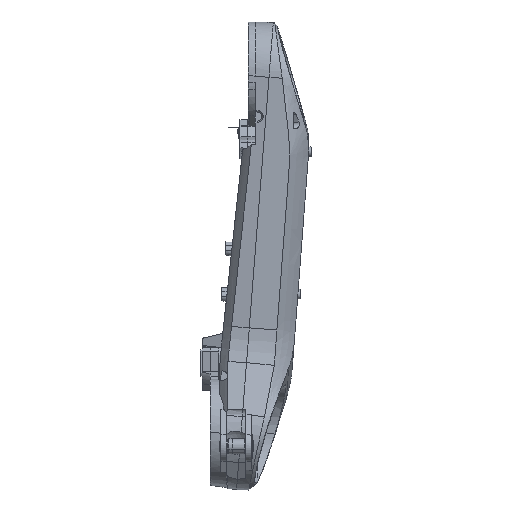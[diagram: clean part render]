
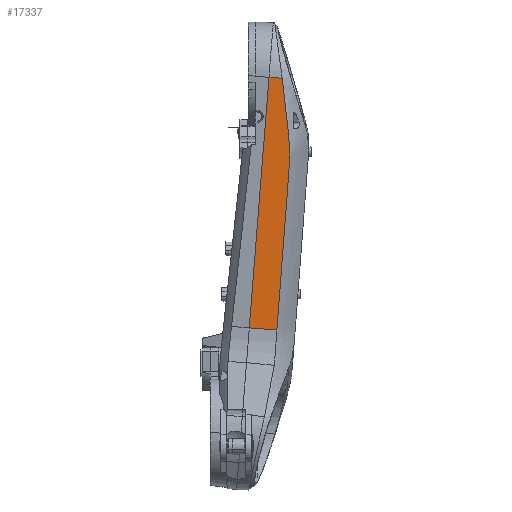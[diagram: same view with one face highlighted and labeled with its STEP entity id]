
A CAD part, left-side view. The second image highlights one B-rep face of the part: STEP entity #17337.
In plain terms, the highlighted planar face has unit normal (-0.996, -0.047, -0.073).
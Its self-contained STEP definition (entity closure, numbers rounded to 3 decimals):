
#2700 = CARTESIAN_POINT ( 'NONE',  ( 177.035, -346.566, 1918.048 ) ) ;
#3103 = AXIS2_PLACEMENT_3D ( 'NONE', #53041, #19084, #52732 ) ;
#3655 = CARTESIAN_POINT ( 'NONE',  ( 225.725, -337.334, 1250.757 ) ) ;
#3947 = CARTESIAN_POINT ( 'NONE',  ( 233.812, -328.584, 1135.319 ) ) ;
#4391 = EDGE_CURVE ( 'NONE', #48452, #6194, #47815, .T. ) ;
#6186 = LINE ( 'NONE', #53957, #32318 ) ;
#6194 = VERTEX_POINT ( 'NONE', #38205 ) ;
#6203 = DIRECTION ( 'NONE',  ( 0.07, 0.078, -0.995 ) ) ;
#7674 = CARTESIAN_POINT ( 'NONE',  ( 175.842, -344.578, 1932.985 ) ) ;
#7978 = CARTESIAN_POINT ( 'NONE',  ( 194.659, -369.599, 1693.316 ) ) ;
#8300 = CARTESIAN_POINT ( 'NONE',  ( 196.061, -369.23, 1674.036 ) ) ;
#8608 = CARTESIAN_POINT ( 'NONE',  ( 194.5, -369.579, 1695.461 ) ) ;
#9795 = CARTESIAN_POINT ( 'NONE',  ( 235.312, -327.003, 1113.939 ) ) ;
#10973 = ORIENTED_EDGE ( 'NONE', *, *, #18918, .T. ) ;
#11444 = CARTESIAN_POINT ( 'NONE',  ( 234.112, -328.262, 1131.043 ) ) ;
#12372 = CARTESIAN_POINT ( 'NONE',  ( 176.013, -344.88, 1930.853 ) ) ;
#12684 = CARTESIAN_POINT ( 'NONE',  ( 193.212, -369.063, 1712.63 ) ) ;
#12989 = CARTESIAN_POINT ( 'NONE',  ( 197.269, -368.139, 1656.926 ) ) ;
#13301 = CARTESIAN_POINT ( 'NONE',  ( 185.122, -357.755, 1815.328 ) ) ;
#13614 = CARTESIAN_POINT ( 'NONE',  ( 191.214, -366.858, 1738.372 ) ) ;
#15386 = VECTOR ( 'NONE', #6203, 1000. ) ;
#15605 = CARTESIAN_POINT ( 'NONE',  ( 173.407, -301.084, 1938.351 ) ) ;
#15659 = VERTEX_POINT ( 'NONE', #15605 ) ;
#15821 = CARTESIAN_POINT ( 'NONE',  ( 234.712, -327.628, 1122.491 ) ) ;
#16769 = EDGE_LOOP ( 'NONE', ( #10973, #59735, #34028, #21421 ) ) ;
#17056 = CARTESIAN_POINT ( 'NONE',  ( 186.474, -359.739, 1798.222 ) ) ;
#17337 = ADVANCED_FACE ( 'NONE', ( #38231 ), #30035, .T. ) ;
#17378 = CARTESIAN_POINT ( 'NONE',  ( 198.767, -366.51, 1635.549 ) ) ;
#17701 = CARTESIAN_POINT ( 'NONE',  ( 192.554, -368.519, 1721.225 ) ) ;
#18017 = CARTESIAN_POINT ( 'NONE',  ( 190.706, -366.092, 1744.784 ) ) ;
#18335 = CARTESIAN_POINT ( 'NONE',  ( 176.525, -345.745, 1924.453 ) ) ;
#18918 = EDGE_CURVE ( 'NONE', #32556, #48452, #6186, .T. ) ;
#19084 = DIRECTION ( 'NONE',  ( -0.996, -0.047, -0.073 ) ) ;
#19708 = DIRECTION ( 'NONE',  ( 0.052, -0.996, -0.075 ) ) ;
#19839 = EDGE_CURVE ( 'NONE', #15659, #32556, #44207, .T. ) ;
#20859 = CARTESIAN_POINT ( 'NONE',  ( 235.312, -327.003, 1113.939 ) ) ;
#21297 = VECTOR ( 'NONE', #60108, 1000. ) ;
#21421 = ORIENTED_EDGE ( 'NONE', *, *, #19839, .T. ) ;
#21807 = CARTESIAN_POINT ( 'NONE',  ( 193.538, -369.269, 1708.335 ) ) ;
#22123 = CARTESIAN_POINT ( 'NONE',  ( 195.131, -369.57, 1686.886 ) ) ;
#22425 = CARTESIAN_POINT ( 'NONE',  ( 232.914, -329.555, 1148.145 ) ) ;
#22719 = CARTESIAN_POINT ( 'NONE',  ( 191.551, -367.338, 1734.093 ) ) ;
#23035 = CARTESIAN_POINT ( 'NONE',  ( 184.446, -356.774, 1823.882 ) ) ;
#26532 = CARTESIAN_POINT ( 'NONE',  ( 229.319, -333.445, 1199.451 ) ) ;
#26839 = CARTESIAN_POINT ( 'NONE',  ( 194.021, -369.464, 1701.896 ) ) ;
#27142 = CARTESIAN_POINT ( 'NONE',  ( 181.077, -352.141, 1866.685 ) ) ;
#27457 = CARTESIAN_POINT ( 'NONE',  ( 195.907, -369.316, 1676.177 ) ) ;
#27762 = CARTESIAN_POINT ( 'NONE',  ( 182.423, -353.934, 1849.557 ) ) ;
#29988 = CARTESIAN_POINT ( 'NONE',  ( 235.162, -327.153, 1116.077 ) ) ;
#30035 = PLANE ( 'NONE',  #3103 ) ;
#30878 = LINE ( 'NONE', #35609, #21297 ) ;
#31538 = CARTESIAN_POINT ( 'NONE',  ( 183.096, -354.863, 1840.996 ) ) ;
#31850 = CARTESIAN_POINT ( 'NONE',  ( 211.347, -352.896, 1455.979 ) ) ;
#32165 = CARTESIAN_POINT ( 'NONE',  ( 196.366, -369.02, 1669.756 ) ) ;
#32318 = VECTOR ( 'NONE', #19708, 1000. ) ;
#32478 = CARTESIAN_POINT ( 'NONE',  ( 198.167, -367.154, 1644.101 ) ) ;
#32556 = VERTEX_POINT ( 'NONE', #46690 ) ;
#32787 = CARTESIAN_POINT ( 'NONE',  ( 190.028, -365.063, 1753.332 ) ) ;
#33945 = EDGE_CURVE ( 'NONE', #15659, #6194, #30878, .T. ) ;
#34028 = ORIENTED_EDGE ( 'NONE', *, *, #33945, .F. ) ;
#35001 = CARTESIAN_POINT ( 'NONE',  ( 234.562, -327.786, 1124.629 ) ) ;
#35609 = CARTESIAN_POINT ( 'NONE',  ( 173.407, -301.084, 1938.351 ) ) ;
#36261 = CARTESIAN_POINT ( 'NONE',  ( 182.086, -353.481, 1853.838 ) ) ;
#36558 = CARTESIAN_POINT ( 'NONE',  ( 178.389, -348.599, 1900.948 ) ) ;
#36858 = CARTESIAN_POINT ( 'NONE',  ( 190.197, -365.319, 1751.195 ) ) ;
#37179 = CARTESIAN_POINT ( 'NONE',  ( 194.181, -369.51, 1699.751 ) ) ;
#37489 = CARTESIAN_POINT ( 'NONE',  ( 176.355, -345.464, 1926.587 ) ) ;
#38205 = CARTESIAN_POINT ( 'NONE',  ( 175.67, -344.258, 1935.114 ) ) ;
#38231 = FACE_OUTER_BOUND ( 'NONE', #16769, .T. ) ;
#40951 = CARTESIAN_POINT ( 'NONE',  ( 204.158, -360.675, 1558.591 ) ) ;
#41269 = CARTESIAN_POINT ( 'NONE',  ( 189.182, -363.786, 1764.019 ) ) ;
#41575 = CARTESIAN_POINT ( 'NONE',  ( 223.328, -339.928, 1284.961 ) ) ;
#41882 = CARTESIAN_POINT ( 'NONE',  ( 196.97, -368.475, 1661.202 ) ) ;
#42204 = CARTESIAN_POINT ( 'NONE',  ( 179.062, -349.5, 1892.384 ) ) ;
#44207 = LINE ( 'NONE', #53055, #15386 ) ;
#45706 = CARTESIAN_POINT ( 'NONE',  ( 195.599, -369.451, 1680.459 ) ) ;
#46000 = CARTESIAN_POINT ( 'NONE',  ( 175.67, -344.258, 1935.114 ) ) ;
#46331 = CARTESIAN_POINT ( 'NONE',  ( 190.536, -365.833, 1746.921 ) ) ;
#46642 = CARTESIAN_POINT ( 'NONE',  ( 191.719, -367.563, 1731.952 ) ) ;
#46690 = CARTESIAN_POINT ( 'NONE',  ( 230.582, -236.79, 1120.701 ) ) ;
#46950 = CARTESIAN_POINT ( 'NONE',  ( 180.406, -351.271, 1875.253 ) ) ;
#47815 = B_SPLINE_CURVE_WITH_KNOTS ( 'NONE', 3,
 ( #20859, #29988, #49167, #15821, #35001, #11444, #3947, #22425, #51363, #61085, #26532, #3655, #41575, #56391, #31850, #50747, #40951, #61412, #51965, #17378, #32478, #12989, #41882, #56697, #32165, #8300, #27457, #45706, #60783, #22123, #51675, #7978, #8608, #37179, #26839, #21807, #12684, #17701, #60480, #46642, #22719, #13614, #60150, #18017, #46331, #36858, #32787, #41269, #56064, #55456, #17056, #13301, #23035, #51038, #31538, #27762, #36261, #27142, #46950, #42204, #36558, #55763, #2700, #18335, #37489, #12372, #7674, #46000 ),
 .UNSPECIFIED., .F., .F.,
 ( 4, 2, 2, 2, 2, 2, 2, 2, 2, 2, 2, 2, 2, 2, 2, 2, 2, 2, 2, 2, 2, 2, 2, 2, 2, 2, 2, 2, 2, 2, 2, 2, 2, 4 ),
 ( 0.01, 0.016, 0.023, 0.035, 0.061, 0.113, 0.216, 0.422, 0.474, 0.525, 0.551, 0.564, 0.571, 0.577, 0.583, 0.59, 0.596, 0.603, 0.616, 0.629, 0.635, 0.641, 0.648, 0.654, 0.68, 0.706, 0.732, 0.745, 0.758, 0.783, 0.809, 0.822, 0.828, 0.835 ),
 .UNSPECIFIED. ) ;
#48452 = VERTEX_POINT ( 'NONE', #9795 ) ;
#49167 = CARTESIAN_POINT ( 'NONE',  ( 235.012, -327.313, 1118.215 ) ) ;
#50747 = CARTESIAN_POINT ( 'NONE',  ( 205.356, -359.379, 1541.489 ) ) ;
#51038 = CARTESIAN_POINT ( 'NONE',  ( 183.433, -355.336, 1836.717 ) ) ;
#51363 = CARTESIAN_POINT ( 'NONE',  ( 232.315, -330.204, 1156.696 ) ) ;
#51675 = CARTESIAN_POINT ( 'NONE',  ( 194.974, -369.591, 1689.029 ) ) ;
#51965 = CARTESIAN_POINT ( 'NONE',  ( 200.564, -364.567, 1609.897 ) ) ;
#52732 = DIRECTION ( 'NONE',  ( 0.073, 0., -0.997 ) ) ;
#53041 = CARTESIAN_POINT ( 'NONE',  ( 174.827, -299.487, 1918.046 ) ) ;
#53055 = CARTESIAN_POINT ( 'NONE',  ( 174.827, -299.487, 1918.046 ) ) ;
#53957 = CARTESIAN_POINT ( 'NONE',  ( 230.582, -236.79, 1120.701 ) ) ;
#55456 = CARTESIAN_POINT ( 'NONE',  ( 187.15, -360.742, 1789.67 ) ) ;
#55763 = CARTESIAN_POINT ( 'NONE',  ( 177.374, -347.091, 1913.775 ) ) ;
#56064 = CARTESIAN_POINT ( 'NONE',  ( 188.504, -362.763, 1772.569 ) ) ;
#56391 = CARTESIAN_POINT ( 'NONE',  ( 216.14, -347.708, 1387.572 ) ) ;
#56697 = CARTESIAN_POINT ( 'NONE',  ( 196.518, -368.895, 1667.617 ) ) ;
#59735 = ORIENTED_EDGE ( 'NONE', *, *, #4391, .T. ) ;
#60108 = DIRECTION ( 'NONE',  ( 0.052, -0.996, -0.075 ) ) ;
#60150 = CARTESIAN_POINT ( 'NONE',  ( 191.044, -366.605, 1740.509 ) ) ;
#60480 = CARTESIAN_POINT ( 'NONE',  ( 192.222, -368.181, 1725.523 ) ) ;
#60783 = CARTESIAN_POINT ( 'NONE',  ( 195.443, -369.501, 1682.601 ) ) ;
#61085 = CARTESIAN_POINT ( 'NONE',  ( 230.517, -332.148, 1182.349 ) ) ;
#61412 = CARTESIAN_POINT ( 'NONE',  ( 201.762, -363.269, 1592.795 ) ) ;
